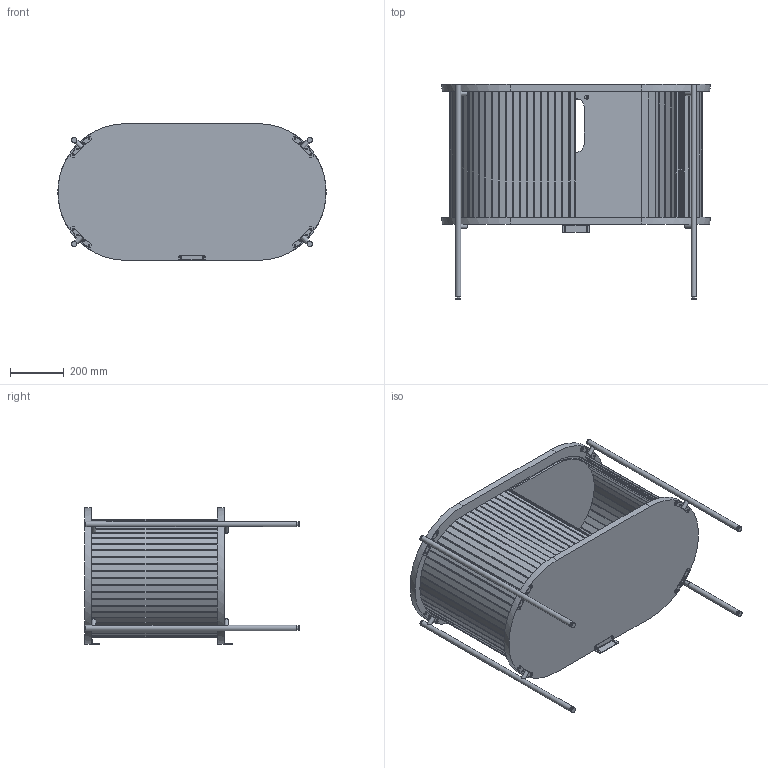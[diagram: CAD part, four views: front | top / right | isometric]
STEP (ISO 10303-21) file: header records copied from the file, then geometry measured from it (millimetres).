
FILE_DESCRIPTION (( 'STEP AP203' ), '1' );
FILE_NAME ('MBCL100S.STEP', '2025-05-21T10:08:53', ( '' ), ( '' ), 'SwSTEP 2.0', 'SolidWorks 2025', '' );
FILE_SCHEMA (( 'CONFIG_CONTROL_DESIGN' ));
Length unit declared in the file: millimetre
Products named in the file (13): SQUADRETTA FIX; MBCL100S; GAMBA2_Default<A macchina>; Assiem2 SERRANDA MOBILE aperta; DOGA serrandina_1; PIANO INFERIORE 100; MANIGLIA serrandina_1; DOGA serrandina; serranda FISSA; Assieme SERRANDA FISSA; Assiem2 SERRANDA MOBILE_chiusa; TAMPONATURA 2; PIANO SUPERIORE 100
Assembly tree (67 placements, depth 3):
  MBCL100S
    PIANO SUPERIORE 100
    PIANO INFERIORE 100
    GAMBA2_Default<A macchina>  x4
    TAMPONATURA 2
    Assieme SERRANDA FISSA  x2
      DOGA serrandina
    Assiem2 SERRANDA MOBILE_chiusa
      MANIGLIA serrandina_1
      DOGA serrandina_1  x16
    Assiem2 SERRANDA MOBILE aperta
      MANIGLIA serrandina_1
      DOGA serrandina_1  x16
    SQUADRETTA FIX  x2
  serranda FISSA
Bounding box: 1000 x 801.4 x 510 mm (x, y, z)
Volume: 26457022.1 mm3; surface area: 7544683.1 mm2
Topology: 83 solids, 83 shells, 2147 faces, 5875 edges, 3906 vertices
Faces by surface type: cylinder 1141, plane 970, cone 36
Full cylindrical faces by diameter (mm): 5 x32, 10 x8, 12 x4, 14 x4, 15 x2, 16 x8, 20 x8, 80 x1
Entity records: 12640 total; most frequent: CARTESIAN_POINT 2062, DIRECTION 1774, ORIENTED_EDGE 1496, EDGE_CURVE 748, AXIS2_PLACEMENT_3D 686, VERTEX_POINT 514, VECTOR 402, LINE 402
